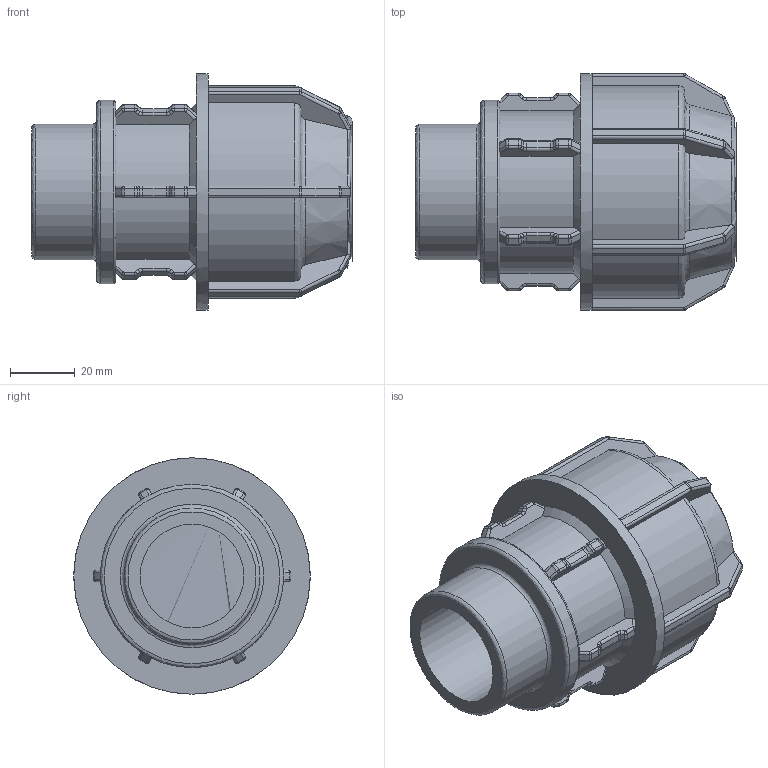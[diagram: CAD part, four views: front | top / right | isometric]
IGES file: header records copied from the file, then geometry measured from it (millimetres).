
Global section: file name: 140200040013.ipt; native system: Autodesk Inventor 2015; preprocessor: unknown; author: KIM; date: 20180409.130937; units: millimetre
Bounding box: 99 x 73 x 73 mm (x, y, z)
Volume: 129991.8 mm3; surface area: 38745.3 mm2
Topology: 1 solids, 1 shells, 469 faces, 1166 edges, 699 vertices
Faces by surface type: cylinder 171, plane 157, revolution 129, cone 12
Full cylindrical faces by diameter (mm): 41.91 x1, 56.578 x1, 73 x1
